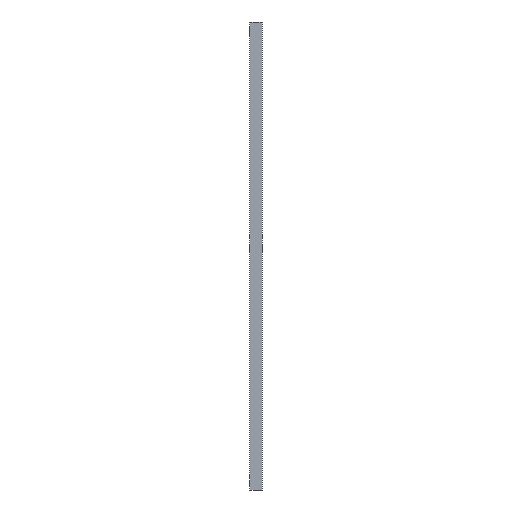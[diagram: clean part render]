
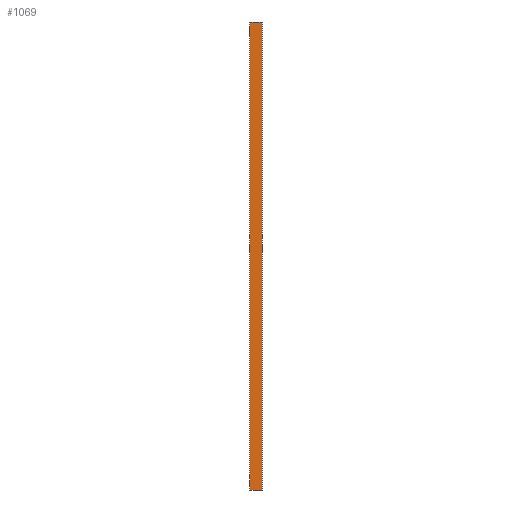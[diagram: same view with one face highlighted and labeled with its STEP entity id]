
A CAD part, left-side view. The second image highlights one B-rep face of the part: STEP entity #1069.
In plain terms, the highlighted planar face has unit normal (-1, 0, 0).
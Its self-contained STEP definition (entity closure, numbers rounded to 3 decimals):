
#24 = VERTEX_POINT ( 'NONE', #296 ) ;
#26 = CARTESIAN_POINT ( 'NONE',  ( -8., 0., 479. ) ) ;
#46 = EDGE_CURVE ( 'NONE', #1198, #183, #947, .T. ) ;
#70 = CARTESIAN_POINT ( 'NONE',  ( -8., 12.5, 479. ) ) ;
#72 = LINE ( 'NONE', #717, #520 ) ;
#87 = ORIENTED_EDGE ( 'NONE', *, *, #903, .T. ) ;
#127 = PLANE ( 'NONE',  #902 ) ;
#132 = VERTEX_POINT ( 'NONE', #974 ) ;
#135 = EDGE_CURVE ( 'NONE', #132, #189, #1413, .T. ) ;
#143 = ORIENTED_EDGE ( 'NONE', *, *, #135, .F. ) ;
#148 = VECTOR ( 'NONE', #248, 1000. ) ;
#183 = VERTEX_POINT ( 'NONE', #1215 ) ;
#189 = VERTEX_POINT ( 'NONE', #547 ) ;
#248 = DIRECTION ( 'NONE',  ( 0., 1., 0. ) ) ;
#296 = CARTESIAN_POINT ( 'NONE',  ( -8., 3.2, 479. ) ) ;
#341 = EDGE_LOOP ( 'NONE', ( #365, #536, #143, #987, #87, #1332, #1196, #1224 ) ) ;
#349 = CARTESIAN_POINT ( 'NONE',  ( -8., 0., 479. ) ) ;
#365 = ORIENTED_EDGE ( 'NONE', *, *, #930, .F. ) ;
#432 = VECTOR ( 'NONE', #445, 1000. ) ;
#445 = DIRECTION ( 'NONE',  ( 0., 1., 0. ) ) ;
#458 = DIRECTION ( 'NONE',  ( 0., 1., 0. ) ) ;
#520 = VECTOR ( 'NONE', #938, 1000. ) ;
#530 = CARTESIAN_POINT ( 'NONE',  ( -8., 3.2, 0. ) ) ;
#536 = ORIENTED_EDGE ( 'NONE', *, *, #1005, .T. ) ;
#547 = CARTESIAN_POINT ( 'NONE',  ( -8., 0., 0. ) ) ;
#570 = LINE ( 'NONE', #1119, #968 ) ;
#591 = EDGE_CURVE ( 'NONE', #694, #991, #570, .T. ) ;
#635 = CARTESIAN_POINT ( 'NONE',  ( -8., 9.3, 0. ) ) ;
#673 = LINE ( 'NONE', #978, #432 ) ;
#694 = VERTEX_POINT ( 'NONE', #710 ) ;
#710 = CARTESIAN_POINT ( 'NONE',  ( -8., 9.3, 479. ) ) ;
#711 = CARTESIAN_POINT ( 'NONE',  ( -8., 0., 0. ) ) ;
#717 = CARTESIAN_POINT ( 'NONE',  ( -8., 0., 479. ) ) ;
#736 = EDGE_CURVE ( 'NONE', #24, #132, #72, .T. ) ;
#771 = CARTESIAN_POINT ( 'NONE',  ( -8., 0., 479. ) ) ;
#780 = DIRECTION ( 'NONE',  ( 0., 0., 1. ) ) ;
#790 = LINE ( 'NONE', #932, #945 ) ;
#852 = LINE ( 'NONE', #956, #901 ) ;
#858 = DIRECTION ( 'NONE',  ( 0., 0., -1. ) ) ;
#896 = FACE_OUTER_BOUND ( 'NONE', #341, .T. ) ;
#901 = VECTOR ( 'NONE', #1078, 1000. ) ;
#902 = AXIS2_PLACEMENT_3D ( 'NONE', #349, #1090, #780 ) ;
#903 = EDGE_CURVE ( 'NONE', #24, #694, #1001, .T. ) ;
#930 = EDGE_CURVE ( 'NONE', #1369, #1198, #673, .T. ) ;
#932 = CARTESIAN_POINT ( 'NONE',  ( -8., 0., 0. ) ) ;
#938 = DIRECTION ( 'NONE',  ( 0., -1., 0. ) ) ;
#945 = VECTOR ( 'NONE', #1117, 1000. ) ;
#947 = LINE ( 'NONE', #711, #1061 ) ;
#956 = CARTESIAN_POINT ( 'NONE',  ( -8., 12.5, 479. ) ) ;
#961 = DIRECTION ( 'NONE',  ( 0., 1., 0. ) ) ;
#968 = VECTOR ( 'NONE', #458, 1000. ) ;
#974 = CARTESIAN_POINT ( 'NONE',  ( -8., 0., 479. ) ) ;
#978 = CARTESIAN_POINT ( 'NONE',  ( -8., 0., 0. ) ) ;
#987 = ORIENTED_EDGE ( 'NONE', *, *, #736, .F. ) ;
#991 = VERTEX_POINT ( 'NONE', #70 ) ;
#1001 = LINE ( 'NONE', #26, #148 ) ;
#1005 = EDGE_CURVE ( 'NONE', #1369, #189, #790, .T. ) ;
#1061 = VECTOR ( 'NONE', #961, 1000. ) ;
#1069 = ADVANCED_FACE ( 'NONE', ( #896 ), #127, .T. ) ;
#1078 = DIRECTION ( 'NONE',  ( 0., 0., -1. ) ) ;
#1090 = DIRECTION ( 'NONE',  ( -1., 0., 0. ) ) ;
#1103 = VECTOR ( 'NONE', #858, 1000. ) ;
#1117 = DIRECTION ( 'NONE',  ( 0., -1., 0. ) ) ;
#1119 = CARTESIAN_POINT ( 'NONE',  ( -8., 12.5, 479. ) ) ;
#1196 = ORIENTED_EDGE ( 'NONE', *, *, #1394, .T. ) ;
#1198 = VERTEX_POINT ( 'NONE', #635 ) ;
#1215 = CARTESIAN_POINT ( 'NONE',  ( -8., 12.5, 0. ) ) ;
#1224 = ORIENTED_EDGE ( 'NONE', *, *, #46, .F. ) ;
#1332 = ORIENTED_EDGE ( 'NONE', *, *, #591, .T. ) ;
#1369 = VERTEX_POINT ( 'NONE', #530 ) ;
#1394 = EDGE_CURVE ( 'NONE', #991, #183, #852, .T. ) ;
#1413 = LINE ( 'NONE', #771, #1103 ) ;
